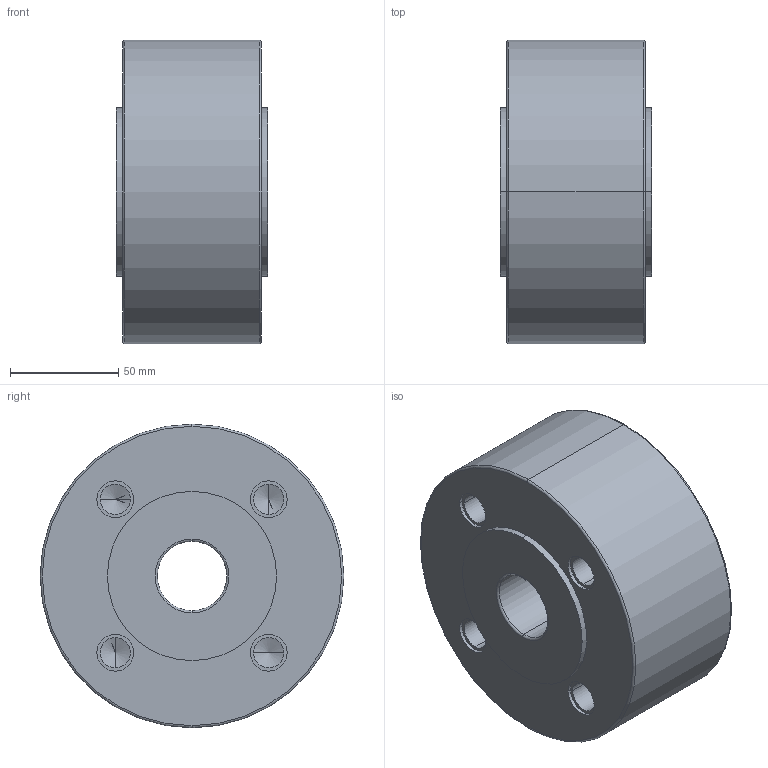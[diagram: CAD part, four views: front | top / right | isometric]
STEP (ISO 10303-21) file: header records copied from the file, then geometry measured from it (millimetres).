
FILE_DESCRIPTION (( 'STEP AP203' ), '1' );
FILE_NAME ('W8_PN10_DN032.STEP', '2012-10-31T06:55:47', ( 'luca.saino' ), ( 'Hewlett-Packard Company' ), 'SwSTEP 2.0', 'SolidWorks 2012', '' );
FILE_SCHEMA (( 'CONFIG_CONTROL_DESIGN' ));
Length unit declared in the file: millimetre
Products named in the file (1): W8_PN10_DN032
Bounding box: 70 x 140 x 140 mm (x, y, z)
Volume: 929249.8 mm3; surface area: 73041.3 mm2
Topology: 1 solids, 1 shells, 76 faces, 168 edges, 96 vertices
Faces by surface type: cylinder 40, cone 16, plane 12, torus 8
Entity records: 2085 total; most frequent: DIRECTION 402, CARTESIAN_POINT 325, ORIENTED_EDGE 304, AXIS2_PLACEMENT_3D 173, EDGE_CURVE 152, VERTEX_POINT 96, EDGE_LOOP 96, CIRCLE 96
